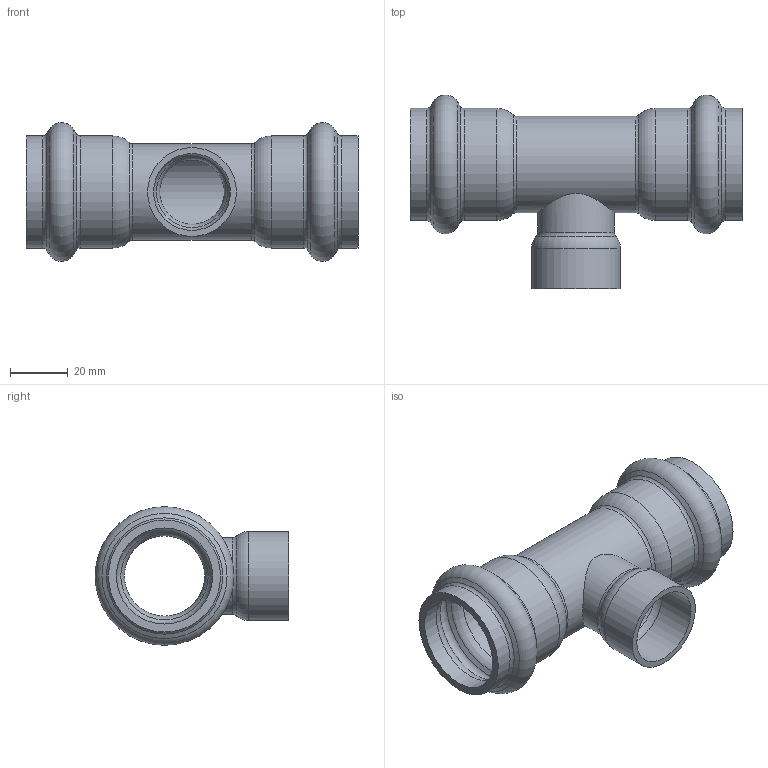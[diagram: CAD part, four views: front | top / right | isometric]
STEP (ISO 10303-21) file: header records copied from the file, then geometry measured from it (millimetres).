
FILE_DESCRIPTION(/* description */ ('VIC TEE RED. BRANCH STYLE P588 (P x P x F)','CAx-IF Rec.Pracs.---Representation and Presentation of Product Manufacturing Information (PMI)---4.0---2014-10-13'),/* implementation_level */ '2;1');
FILE_NAME(/* name */ 'C:\Users\Vjadhav\AppData\Roaming\Autodesk\ApplicationPlugins\Back Up\Victaulic_SS-Vic-Press-TP 304_Tee Threaded_Style P588 (VPxFPT)\Victaulic_SS-Vic-Press-TP 304_Tee Threaded_Style P588 (VPxFPT)_01.0x0.75 (25x20).stp',/* time_stamp */ '2020-08-12T18:49:42+05:00',/* author */ ('cgray'),/* organization */ ('Victaulic'),/* preprocessor_version */ 'ST-DEVELOPER v17.2',/* originating_system */ 'Autodesk Inventor 2019',/* authorisation */ '');
FILE_SCHEMA (('AP242_MANAGED_MODEL_BASED_3D_ENGINEERING_MIM_LF { 1 0 10303 442 1 1 4 }'));
Length unit declared in the file: inch
Products named in the file (1): P588-01.0x0.75
Bounding box: 115.32 x 67.26 x 48.16 mm (x, y, z)
Volume: 42334.6 mm3; surface area: 32645.1 mm2
Topology: 1 solids, 1 shells, 49 faces, 184 edges, 136 vertices
Faces by surface type: torus 24, cylinder 14, cone 8, plane 3
Full cylindrical faces by diameter (mm): 22.454 x1, 26.67 x2, 27.864 x1, 30.886 x1, 33.401 x5, 38.938 x4
Entity records: 2387 total; most frequent: CARTESIAN_POINT 491, DIRECTION 454, ORIENTED_EDGE 368, AXIS2_PLACEMENT_3D 215, EDGE_CURVE 184, CIRCLE 152, VERTEX_POINT 136, EDGE_LOOP 52
